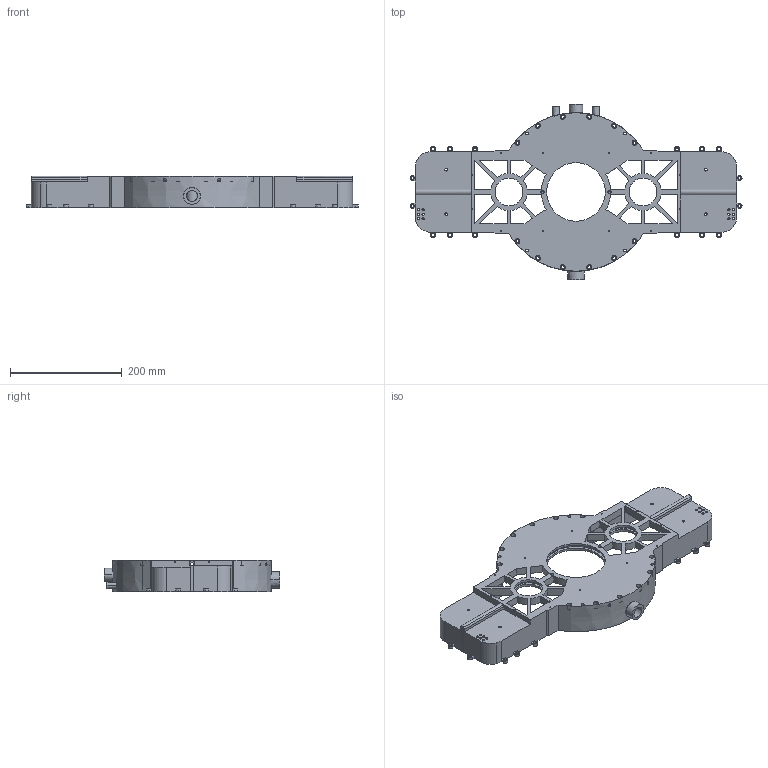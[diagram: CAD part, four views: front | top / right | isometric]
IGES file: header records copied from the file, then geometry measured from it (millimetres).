
Start section: IMSI TurboCAD v14.0
Global section: author: NULL; organization: NULL; date: 20250711.180409; units: millimetre
Bounding box: 595 x 314 x 56 mm (x, y, z)
Surface area: 428470.1 mm2 (no closed solid volume)
Topology: 0 solids, 0 shells, 675 faces, 3966 edges, 3968 vertices
Faces by surface type: revolution 418, extrusion 257
